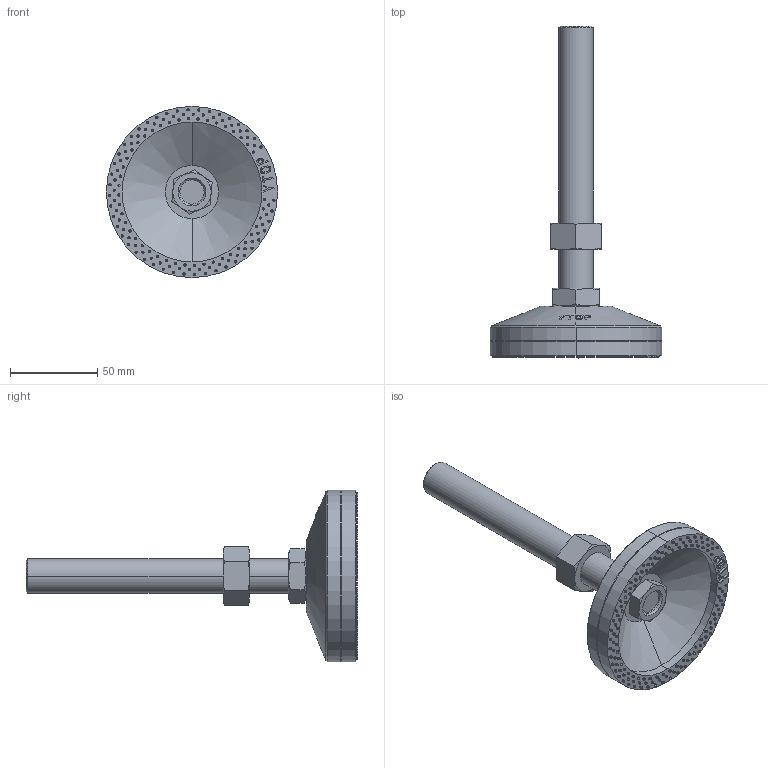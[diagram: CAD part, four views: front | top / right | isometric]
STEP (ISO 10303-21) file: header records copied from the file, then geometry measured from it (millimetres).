
FILE_DESCRIPTION (( 'STEP AP203' ), '1' );
FILE_NAME ('AH-100-20150-TPU.STEP', '2020-09-09T03:59:25', ( '' ), ( '' ), 'SwSTEP 2.0', 'SolidWorks 2016', '' );
FILE_SCHEMA (( 'CONFIG_CONTROL_DESIGN' ));
Length unit declared in the file: millimetre
Products named in the file (6): 傲郈蹟裝M20炵蹈_M20X150; AH-100-20150-TPU; 脚垫锁紧六角薄螺母M16; AH-100蝶菜; 脚垫调节六角螺母M20; AH-100菁釱
Assembly tree (5 placements, depth 2):
  AH-100-20150-TPU
    AH-100菁釱
    AH-100蝶菜
    傲郈蹟裝M20炵蹈_M20X150
    脚垫锁紧六角薄螺母M16
    脚垫调节六角螺母M20
Bounding box: 98 x 189.9 x 98 mm (x, y, z)
Volume: 172190.2 mm3; surface area: 55833.4 mm2
Topology: 5 solids, 5 shells, 723 faces, 2043 edges, 1215 vertices
Faces by surface type: cylinder 280, sphere 262, cone 66, plane 65, bspline 50
Entity records: 24946 total; most frequent: CARTESIAN_POINT 8540, DIRECTION 3559, ORIENTED_EDGE 3038, AXIS2_PLACEMENT_3D 1567, EDGE_CURVE 1519, VERTEX_POINT 953, CIRCLE 886, EDGE_LOOP 878
